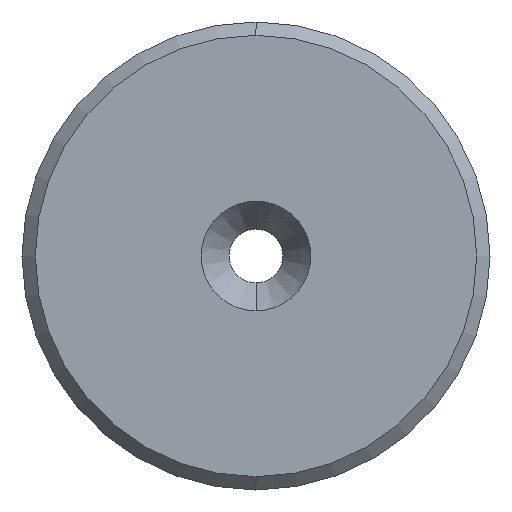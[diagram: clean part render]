
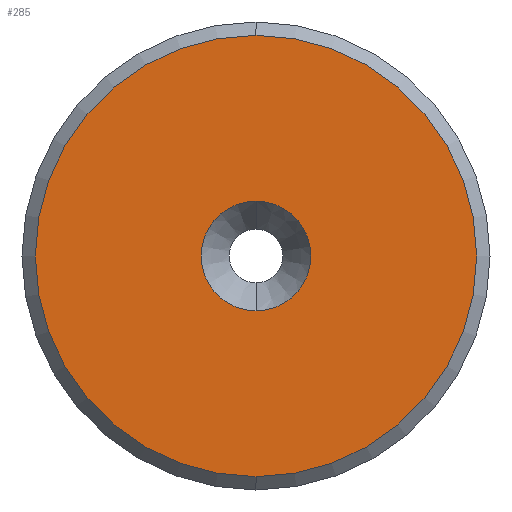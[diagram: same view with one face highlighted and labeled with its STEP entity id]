
A CAD part, left-side view. The second image highlights one B-rep face of the part: STEP entity #285.
In plain terms, the highlighted planar face has unit normal (-1, 0, 0).
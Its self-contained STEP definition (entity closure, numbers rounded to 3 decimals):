
#10 = CARTESIAN_POINT ( 'NONE',  ( 0., 0., 0. ) ) ;
#16 = DIRECTION ( 'NONE',  ( -1., 0., 0. ) ) ;
#19 = ORIENTED_EDGE ( 'NONE', *, *, #345, .F. ) ;
#33 = CARTESIAN_POINT ( 'NONE',  ( 0., 0., -16.5 ) ) ;
#40 = AXIS2_PLACEMENT_3D ( 'NONE', #484, #250, #219 ) ;
#43 = ORIENTED_EDGE ( 'NONE', *, *, #335, .T. ) ;
#46 = CIRCLE ( 'NONE', #428, 16.5 ) ;
#49 = DIRECTION ( 'NONE',  ( 0., 0., 1. ) ) ;
#50 = VERTEX_POINT ( 'NONE', #33 ) ;
#62 = FACE_BOUND ( 'NONE', #77, .T. ) ;
#66 = EDGE_CURVE ( 'NONE', #91, #50, #142, .T. ) ;
#75 = FACE_OUTER_BOUND ( 'NONE', #433, .T. ) ;
#77 = EDGE_LOOP ( 'NONE', ( #402, #19 ) ) ;
#91 = VERTEX_POINT ( 'NONE', #446 ) ;
#142 = CIRCLE ( 'NONE', #40, 16.5 ) ;
#170 = DIRECTION ( 'NONE',  ( -1., 0., 0. ) ) ;
#202 = CARTESIAN_POINT ( 'NONE',  ( 0., 4.101, 0. ) ) ;
#210 = CARTESIAN_POINT ( 'NONE',  ( 0., 0., 4.101 ) ) ;
#219 = DIRECTION ( 'NONE',  ( 0., 0., -1. ) ) ;
#235 = DIRECTION ( 'NONE',  ( 1., 0., 0. ) ) ;
#237 = PLANE ( 'NONE',  #376 ) ;
#239 = CARTESIAN_POINT ( 'NONE',  ( 0., 0., 0. ) ) ;
#250 = DIRECTION ( 'NONE',  ( -1., 0., 0. ) ) ;
#258 = EDGE_CURVE ( 'NONE', #469, #488, #460, .T. ) ;
#269 = DIRECTION ( 'NONE',  ( -1., 0., 0. ) ) ;
#272 = DIRECTION ( 'NONE',  ( 0., 0., -1. ) ) ;
#274 = DIRECTION ( 'NONE',  ( 0., 0., 1. ) ) ;
#280 = CARTESIAN_POINT ( 'NONE',  ( 0., 0., -4.101 ) ) ;
#285 = ADVANCED_FACE ( 'NONE', ( #75, #62 ), #237, .F. ) ;
#335 = EDGE_CURVE ( 'NONE', #50, #91, #46, .T. ) ;
#345 = EDGE_CURVE ( 'NONE', #488, #469, #346, .T. ) ;
#346 = CIRCLE ( 'NONE', #404, 4.101 ) ;
#376 = AXIS2_PLACEMENT_3D ( 'NONE', #202, #235, #272 ) ;
#390 = CARTESIAN_POINT ( 'NONE',  ( 0., 0., 0. ) ) ;
#402 = ORIENTED_EDGE ( 'NONE', *, *, #258, .F. ) ;
#404 = AXIS2_PLACEMENT_3D ( 'NONE', #239, #16, #274 ) ;
#420 = AXIS2_PLACEMENT_3D ( 'NONE', #10, #269, #49 ) ;
#428 = AXIS2_PLACEMENT_3D ( 'NONE', #390, #170, #431 ) ;
#431 = DIRECTION ( 'NONE',  ( 0., 0., -1. ) ) ;
#433 = EDGE_LOOP ( 'NONE', ( #43, #438 ) ) ;
#438 = ORIENTED_EDGE ( 'NONE', *, *, #66, .T. ) ;
#446 = CARTESIAN_POINT ( 'NONE',  ( 0., 0., 16.5 ) ) ;
#460 = CIRCLE ( 'NONE', #420, 4.101 ) ;
#469 = VERTEX_POINT ( 'NONE', #210 ) ;
#484 = CARTESIAN_POINT ( 'NONE',  ( 0., 0., 0. ) ) ;
#488 = VERTEX_POINT ( 'NONE', #280 ) ;
